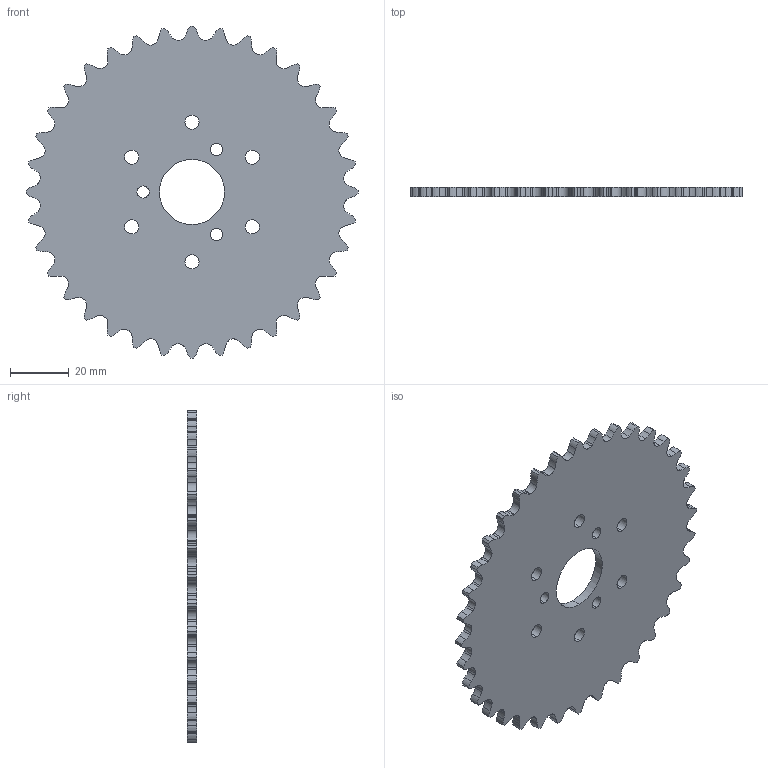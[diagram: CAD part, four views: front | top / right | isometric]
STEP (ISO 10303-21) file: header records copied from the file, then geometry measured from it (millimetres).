
FILE_DESCRIPTION (( 'STEP AP203' ), '1' );
FILE_NAME ('IFI-SPROCKET-35A36 RevB.STEP', '2006-11-03T17:42:50', ( 'Innovation First, Inc.' ), ( 'Innovation First, Inc.' ), 'SwSTEP 2.0', 'SolidWorks 2006052', '' );
FILE_SCHEMA (( 'CONFIG_CONTROL_DESIGN' ));
Length unit declared in the file: inch
Products named in the file (1): IFI-SPROCKET-35A36 RevB
Bounding box: 113.44 x 3.17 x 113.44 mm (x, y, z)
Volume: 27410.5 mm3; surface area: 19531.8 mm2
Topology: 1 solids, 1 shells, 294 faces, 876 edges, 584 vertices
Faces by surface type: cylinder 256, plane 38
Entity records: 10291 total; most frequent: DIRECTION 1978, CARTESIAN_POINT 1755, ORIENTED_EDGE 1752, EDGE_CURVE 876, AXIS2_PLACEMENT_3D 807, VERTEX_POINT 584, CIRCLE 512, VECTOR 364
